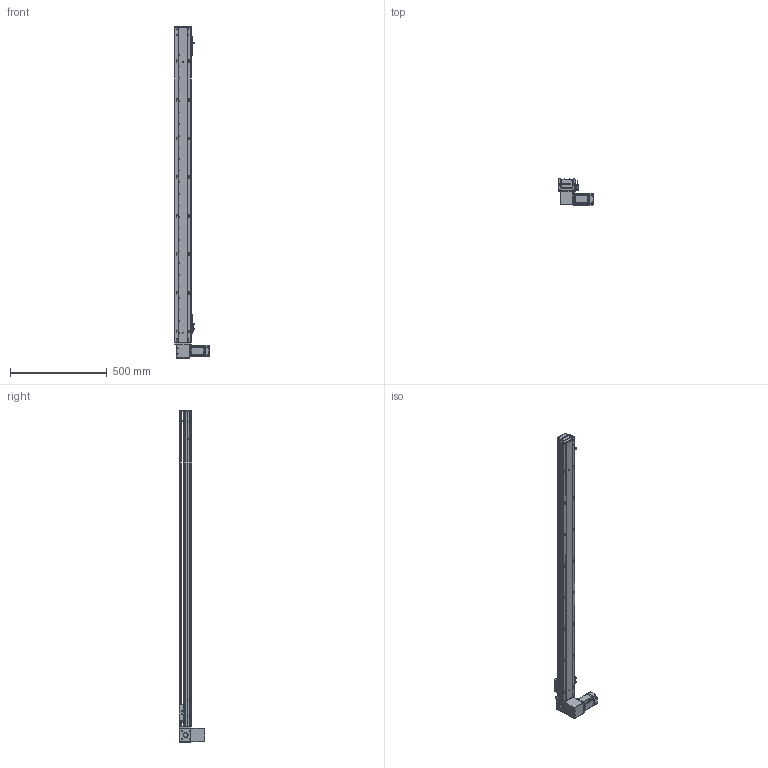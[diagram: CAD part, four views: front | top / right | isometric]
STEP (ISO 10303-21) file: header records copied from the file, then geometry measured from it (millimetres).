
FILE_DESCRIPTION (( 'STEP AP203' ), '1' );
FILE_NAME ('RY80-T-300-DR.SLDASM_1450.step', '2021-03-01T01:50:47', ( '盈信电脑' ), ( '东莞市道滘镇水果街19号' ), 'SwSTEP 2.0', 'SolidWorks 2012', '' );
FILE_SCHEMA (( 'CONFIG_CONTROL_DESIGN' ));
Length unit declared in the file: millimetre
Products named in the file (18): RY80-T-300-DR.SLDASM_1450; RY80-T-M4蹟翐3; 1; RY80-T肮祭謫狟殏俋欶; RY80-T-上下折同步轮盖板; RY80-T翋肮祭謫裔啣; RY80-T萇儂假蚾啣; 滅袉蝶18-10; RY80-T肮祭湍揤輸1; RY80-T肮祭湍揤輸2; 672嫖萇羲壽假蚾釱; RY80-T-翋肮祭謫釱; RY80俋离覜茼え; 覜茼ん672; RY80-T-300-DR倰第菁釱_1450; RY80-T綴裔啣; RY80-T-300-DR倰第奻裔啣_1450; RY80-T肮祭謫臏賑輸
Assembly tree (21 placements, depth 2):
  RY80-T-300-DR.SLDASM_1450
    RY80-T-300-DR倰第菁釱_1450
    RY80-T肮祭謫臏賑輸
    RY80-T-300-DR倰第奻裔啣_1450
    RY80-T綴裔啣
    672嫖萇羲壽假蚾釱  x2
    覜茼ん672  x3
    RY80俋离覜茼え
    RY80-T-翋肮祭謫釱
    RY80-T肮祭湍揤輸1
    RY80-T肮祭湍揤輸2
    滅袉蝶18-10  x2
    RY80-T翋肮祭謫裔啣
    RY80-T-上下折同步轮盖板
    RY80-T肮祭謫狟殏俋欶
    RY80-T萇儂假蚾啣
    1
    RY80-T-M4蹟翐3
Bounding box: 180 x 134.5 x 1720 mm (x, y, z)
Volume: 2749078.6 mm3; surface area: 1164618.8 mm2
Topology: 21 solids, 21 shells, 2470 faces, 6846 edges, 4446 vertices
Faces by surface type: plane 1315, cylinder 957, cone 142, bspline 56
Entity records: 79260 total; most frequent: CARTESIAN_POINT 19518, ORIENTED_EDGE 12336, DIRECTION 11540, EDGE_CURVE 6168, VERTEX_POINT 4050, AXIS2_PLACEMENT_3D 3888, LINE 3764, VECTOR 3764
